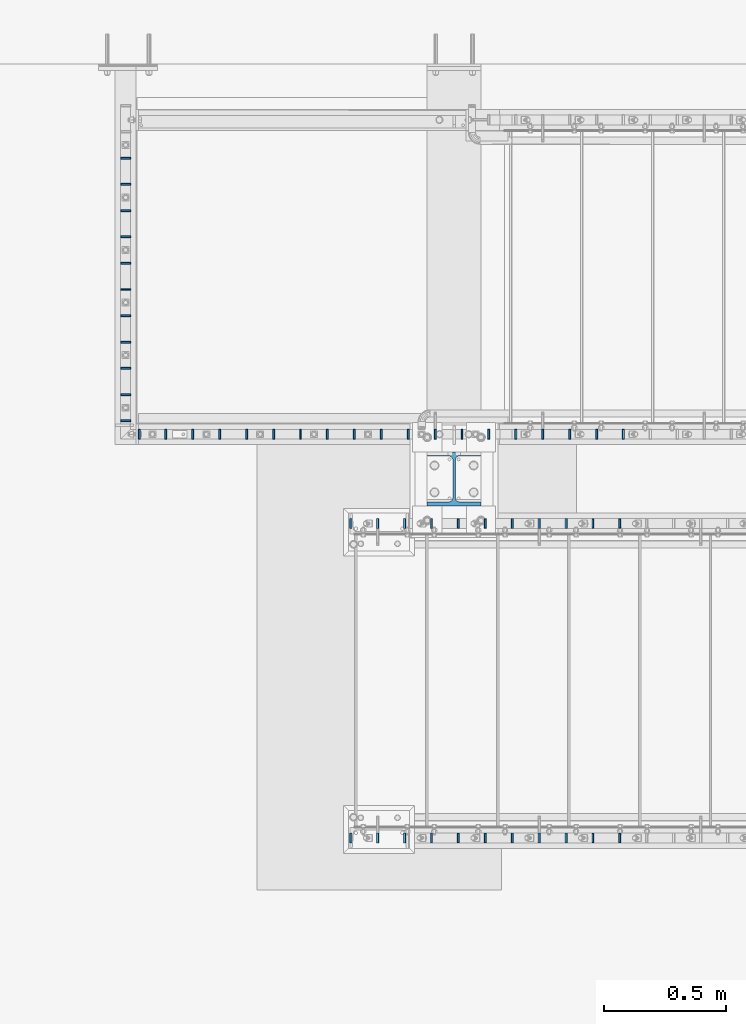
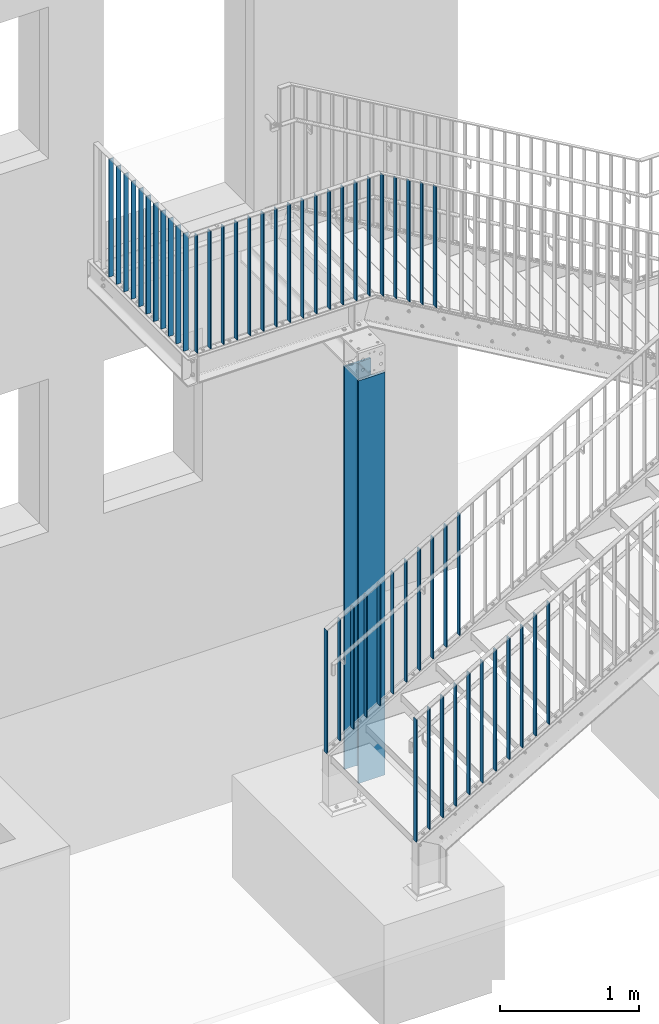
# One storey, part 1 of 145: 53 columns.
"""IFC2X3 building model written with IfcOpenShell, lengths in millimetres."""

from ifc_helpers import new_model, entity, si_unit, converted_unit, frame, origin, origin_with_axes, origin_2d, place, context, project, spatial, rectangle, i_section, extrude, clip, halfspace, material, element, save


model = new_model("IFC2X3")

# Units and contexts
model_context = context("Model", 3, precision=1e-09, world=origin_with_axes())
ifc_project = project(units=[si_unit("LENGTHUNIT", "METRE", prefix="MILLI"), si_unit("AREAUNIT", "SQUARE_METRE"), si_unit("VOLUMEUNIT", "CUBIC_METRE"), converted_unit("PLANEANGLEUNIT", "DEGREE", entity("IfcPlaneAngleMeasure", 0.01745329), si_unit("PLANEANGLEUNIT", "RADIAN"), dimensions=[0, 0, 0, 0, 0, 0, 0])], contexts=[model_context])

# Site, building, storey
site_placement = place(None, origin_with_axes())
site = spatial("IfcSite", under=ifc_project, at=site_placement, Name="BZ1 Grund- und Mittelschule 85716 Unterschlei?heim", CompositionType="ELEMENT")
building_placement = place(site_placement, origin_with_axes())
building = spatial("IfcBuilding", under=site, at=building_placement, Name="Struktur 1", CompositionType="ELEMENT")
storey_placement = place(building_placement, origin_with_axes())
storey = spatial("IfcBuildingStorey", under=building, at=storey_placement, Name="Default Storey", CompositionType="ELEMENT", Elevation=0.0)

# Columns
ifc_material = material(Name="S235JR")
for number, where, z_axis, x_axis in (
    (1, (15728.34372732, -1457.705651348, 3308.000000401), (0.0, 0.0, -1.0), (0.0, -1.0, 0.0)),
    (2, (15728.34372732, -1350.313984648, 3308.000000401), (0.0, 0.0, -1.0), (0.0, -1.0, 0.0)),
    (3, (15783.141490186, -1512.502, 3308.000000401), (0.0, 0.0, -1.0), (1.0, 0.0, 0.0)),
    (4, (15728.34372732, -1242.922317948, 3308.000000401), (0.0, 0.0, -1.0), (0.0, -1.0, 0.0)),
    (5, (15728.34372732, -1135.530651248, 3308.000000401), (0.0, 0.0, -1.0), (0.0, -1.0, 0.0)),
    (6, (15728.34372732, -1028.138984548, 3308.000000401), (0.0, 0.0, -1.0), (0.0, -1.0, 0.0)),
    (7, (15728.34372732, -920.747317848, 3308.000000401), (0.0, 0.0, -1.0), (0.0, -1.0, 0.0)),
    (8, (15728.34372732, -813.355651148, 3308.000000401), (0.0, 0.0, -1.0), (0.0, -1.0, 0.0)),
    (9, (15728.34372732, -705.963984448, 3308.000000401), (0.0, 0.0, -1.0), (0.0, -1.0, 0.0)),
    (10, (15728.34372732, -598.572317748, 3308.000000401), (0.0, 0.0, -1.0), (0.0, -1.0, 0.0)),
    (11, (15728.34372732, -491.180651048, 3308.000000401), (0.0, 0.0, -1.0), (0.0, -1.0, 0.0)),
    (12, (15728.34372732, -383.788984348, 3308.000000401), (0.0, 0.0, -1.0), (0.0, -1.0, 0.0)),
):
    element("IfcColumn", number, at=place(None, frame(where, z_axis=z_axis, x_axis=x_axis)), inside=storey, material=ifc_material, Name="-", ObjectType="-", context=model_context, shape_type="SweptSolid", body=[
        extrude(rectangle(XDim=8.0, YDim=40.0, at=origin_2d()), origin(), (0.0, 0.0, -1.0), 1033.999999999),
    ])
column_1_placement = place(None, frame((17070.84472732, -1695.002, -710.0), z_axis=(0.0, 0.0, -1.0), x_axis=(1.0, 0.0, 0.0)))
element("IfcColumn", 13, at=column_1_placement, inside=storey, material=ifc_material, Name="-", ObjectType="-", context=model_context, shape_type="SweptSolid", body=[
    extrude(i_section(OverallWidth=220.0, OverallDepth=220.0, WebThickness=9.5, FlangeThickness=16.0, FilletRadius=18.0, at=origin_2d()), origin(), (0.0, 0.0, -1.0), 3530.0),
])
column_2_placement = place(None, frame((17748.545893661, -3162.502, 344.648172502), z_axis=(0.0, 0.0, -1.0), x_axis=(1.0, 0.0, 0.0)))
element("IfcColumn", 14, at=column_2_placement, inside=storey, material=ifc_material, Name="-", ObjectType="-", context=model_context, shape_type="Clipping", body=[
    clip(clip(extrude(rectangle(XDim=8.0, YDim=40.0, at=origin_2d()), origin(), (0.0, 0.0, -1.0), 1108.679153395), halfspace(frame((-13423.541197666, -3162.502, 7782.257326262), z_axis=(-0.502691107, 0.0, -0.864466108), x_axis=(0.0, 1.0, 0.0)), True)), halfspace(frame((-13884.821312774, -3162.502, 6989.004729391), z_axis=(0.502691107, 0.0, 0.864466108), x_axis=(0.0, -1.0, 0.0)), True)),
])
column_3_placement = place(None, frame((17748.545893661, -1877.502, 344.648172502), z_axis=(0.0, 0.0, -1.0), x_axis=(-1.0, 0.0, 0.0)))
element("IfcColumn", 15, at=column_3_placement, inside=storey, material=ifc_material, Name="-", ObjectType="-", context=model_context, shape_type="Clipping", body=[
    clip(clip(extrude(rectangle(XDim=8.0, YDim=40.0, at=origin_2d()), origin(), (0.0, 0.0, -1.0), 1108.679153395), halfspace(frame((13423.541197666, 1877.502, 7782.257326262), z_axis=(0.502691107, 0.0, -0.864466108), x_axis=(0.0, -1.0, 0.0)), True)), halfspace(frame((13884.821312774, 1877.502, 6989.004729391), z_axis=(-0.502691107, 0.0, 0.864466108), x_axis=(0.0, 1.0, 0.0)), True)),
])
column_4_placement = place(None, frame((17198.545893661, -3162.502, 24.820586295), z_axis=(0.0, 0.0, -1.0), x_axis=(1.0, 0.0, 0.0)))
element("IfcColumn", 16, at=column_4_placement, inside=storey, material=ifc_material, Name="-", ObjectType="-", context=model_context, shape_type="Clipping", body=[
    clip(clip(extrude(rectangle(XDim=8.0, YDim=40.0, at=origin_2d()), origin(), (0.0, 0.0, -1.0), 1108.679153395), halfspace(frame((-12873.541197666, -3162.502, 7462.429740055), z_axis=(-0.502691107, 0.0, -0.864466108), x_axis=(0.0, 1.0, 0.0)), True)), halfspace(frame((-13334.821312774, -3162.502, 6669.177143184), z_axis=(0.502691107, 0.0, 0.864466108), x_axis=(0.0, -1.0, 0.0)), True)),
])
column_5_placement = place(None, frame((17198.545893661, -1877.502, 24.820586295), z_axis=(0.0, 0.0, -1.0), x_axis=(-1.0, 0.0, 0.0)))
element("IfcColumn", 17, at=column_5_placement, inside=storey, material=ifc_material, Name="-", ObjectType="-", context=model_context, shape_type="Clipping", body=[
    clip(clip(extrude(rectangle(XDim=8.0, YDim=40.0, at=origin_2d()), origin(), (0.0, 0.0, -1.0), 1108.679153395), halfspace(frame((12873.541197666, 1877.502, 7462.429740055), z_axis=(0.502691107, 0.0, -0.864466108), x_axis=(0.0, -1.0, 0.0)), True)), halfspace(frame((13334.821312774, 1877.502, 6669.177143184), z_axis=(-0.502691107, 0.0, 0.864466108), x_axis=(0.0, 1.0, 0.0)), True)),
])
for number, where, z_axis, x_axis in (
    (18, (16333.141490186, -1512.502, 3308.000000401), (0.0, 0.0, -1.0), (1.0, 0.0, 0.0)),
    (19, (16223.141490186, -1512.502, 3308.000000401), (0.0, 0.0, -1.0), (1.0, 0.0, 0.0)),
    (20, (16113.141490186, -1512.502, 3308.000000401), (0.0, 0.0, -1.0), (1.0, 0.0, 0.0)),
    (21, (16003.141490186, -1512.502, 3308.000000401), (0.0, 0.0, -1.0), (1.0, 0.0, 0.0)),
    (22, (15893.141490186, -1512.502, 3308.000000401), (0.0, 0.0, -1.0), (1.0, 0.0, 0.0)),
    (23, (17103.141490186, -1512.502, 3308.000000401), (0.0, 0.0, -1.0), (1.0, 0.0, 0.0)),
    (24, (17213.141490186, -1512.502, 3308.000000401), (0.0, 0.0, -1.0), (1.0, 0.0, 0.0)),
    (25, (16773.141490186, -1512.502, 3308.000000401), (0.0, 0.0, -1.0), (1.0, 0.0, 0.0)),
    (26, (16663.141490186, -1512.502, 3308.000000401), (0.0, 0.0, -1.0), (1.0, 0.0, 0.0)),
    (27, (16553.141490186, -1512.502, 3308.000000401), (0.0, 0.0, -1.0), (1.0, 0.0, 0.0)),
    (28, (16443.141490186, -1512.502, 3308.000000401), (0.0, 0.0, -1.0), (1.0, 0.0, 0.0)),
):
    element("IfcColumn", number, at=place(None, frame(where, z_axis=z_axis, x_axis=x_axis)), inside=storey, material=ifc_material, Name="-", ObjectType="-", context=model_context, shape_type="SweptSolid", body=[
        extrude(rectangle(XDim=8.0, YDim=40.0, at=origin_2d()), origin(), (0.0, 0.0, -1.0), 1033.999999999),
    ])
column_6_placement = place(None, frame((17323.141490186, -1512.506106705, 3246.356636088), z_axis=(0.0, 0.0, -1.0), x_axis=(1.0, 0.0, 0.0)))
element("IfcColumn", 29, at=column_6_placement, inside=storey, material=ifc_material, Name="-", ObjectType="-", context=model_context, shape_type="Clipping", body=[
    clip(clip(extrude(rectangle(XDim=8.0, YDim=40.0, at=origin_2d()), origin(), (0.0, 0.0, -1.0), 1108.679153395), halfspace(frame((-11524.623942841, -1512.506106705, -6725.218014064), z_axis=(0.502691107, 0.0, -0.864466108), x_axis=(0.0, -1.0, 0.0)), True)), halfspace(frame((-11063.343827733, -1512.506106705, -7518.470610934), z_axis=(-0.502691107, 0.0, 0.864466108), x_axis=(0.0, 1.0, 0.0)), True)),
])
column_7_placement = place(None, frame((16993.141490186, -1512.502, 3308.000000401), z_axis=(0.0, 0.0, -1.0), x_axis=(1.0, 0.0, 0.0)))
element("IfcColumn", 30, at=column_7_placement, inside=storey, material=ifc_material, Name="-", ObjectType="-", context=model_context, shape_type="SweptSolid", body=[
    extrude(rectangle(XDim=8.0, YDim=40.0, at=origin_2d()), origin(), (0.0, 0.0, -1.0), 1033.999999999),
])
column_8_placement = place(None, frame((17763.141490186, -1512.506106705, 2990.494567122), z_axis=(0.0, 0.0, -1.0), x_axis=(1.0, 0.0, 0.0)))
element("IfcColumn", 31, at=column_8_placement, inside=storey, material=ifc_material, Name="-", ObjectType="-", context=model_context, shape_type="Clipping", body=[
    clip(clip(extrude(rectangle(XDim=8.0, YDim=40.0, at=origin_2d()), origin(), (0.0, 0.0, -1.0), 1108.679153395), halfspace(frame((-11964.623942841, -1512.506106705, -6981.080083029), z_axis=(0.502691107, 0.0, -0.864466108), x_axis=(0.0, -1.0, 0.0)), True)), halfspace(frame((-11503.343827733, -1512.506106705, -7774.3326799), z_axis=(-0.502691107, 0.0, 0.864466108), x_axis=(0.0, 1.0, 0.0)), True)),
])
column_9_placement = place(None, frame((17653.141490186, -1512.506106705, 3054.460084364), z_axis=(0.0, 0.0, -1.0), x_axis=(1.0, 0.0, 0.0)))
element("IfcColumn", 32, at=column_9_placement, inside=storey, material=ifc_material, Name="-", ObjectType="-", context=model_context, shape_type="Clipping", body=[
    clip(clip(extrude(rectangle(XDim=8.0, YDim=40.0, at=origin_2d()), origin(), (0.0, 0.0, -1.0), 1108.679153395), halfspace(frame((-11854.623942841, -1512.506106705, -6917.114565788), z_axis=(0.502691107, 0.0, -0.864466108), x_axis=(0.0, -1.0, 0.0)), True)), halfspace(frame((-11393.343827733, -1512.506106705, -7710.367162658), z_axis=(-0.502691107, 0.0, 0.864466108), x_axis=(0.0, 1.0, 0.0)), True)),
])
column_10_placement = place(None, frame((17543.141490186, -1512.502, 3118.425601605), z_axis=(0.0, 0.0, -1.0), x_axis=(1.0, 0.0, 0.0)))
element("IfcColumn", 33, at=column_10_placement, inside=storey, material=ifc_material, Name="-", ObjectType="-", context=model_context, shape_type="Clipping", body=[
    clip(clip(extrude(rectangle(XDim=8.0, YDim=40.0, at=origin_2d()), origin(), (0.0, 0.0, -1.0), 1108.679153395), halfspace(frame((-11744.623942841, -1512.502, -6853.149048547), z_axis=(0.502691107, 0.0, -0.864466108), x_axis=(0.0, -1.0, 0.0)), True)), halfspace(frame((-11283.343827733, -1512.502, -7646.401645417), z_axis=(-0.502691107, 0.0, 0.864466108), x_axis=(0.0, 1.0, 0.0)), True)),
])
column_11_placement = place(None, frame((17433.141490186, -1512.502, 3182.391118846), z_axis=(0.0, 0.0, -1.0), x_axis=(1.0, 0.0, 0.0)))
element("IfcColumn", 34, at=column_11_placement, inside=storey, material=ifc_material, Name="-", ObjectType="-", context=model_context, shape_type="Clipping", body=[
    clip(clip(extrude(rectangle(XDim=8.0, YDim=40.0, at=origin_2d()), origin(), (0.0, 0.0, -1.0), 1108.679153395), halfspace(frame((-11634.623942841, -1512.502, -6789.183531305), z_axis=(0.502691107, 0.0, -0.864466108), x_axis=(0.0, -1.0, 0.0)), True)), halfspace(frame((-11173.343827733, -1512.502, -7582.436128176), z_axis=(-0.502691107, 0.0, 0.864466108), x_axis=(0.0, 1.0, 0.0)), True)),
])
column_12_placement = place(None, frame((16883.141490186, -1512.502, 3308.000000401), z_axis=(0.0, 0.0, -1.0), x_axis=(1.0, 0.0, 0.0)))
element("IfcColumn", 35, at=column_12_placement, inside=storey, material=ifc_material, Name="-", ObjectType="-", context=model_context, shape_type="SweptSolid", body=[
    extrude(rectangle(XDim=8.0, YDim=40.0, at=origin_2d()), origin(), (0.0, 0.0, -1.0), 1033.999999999),
])
column_13_placement = place(None, frame((16758.545893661, -3162.502, -231.041482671), z_axis=(0.0, 0.0, -1.0), x_axis=(1.0, 0.0, 0.0)))
element("IfcColumn", 36, at=column_13_placement, inside=storey, material=ifc_material, Name="-", ObjectType="-", context=model_context, shape_type="Clipping", body=[
    clip(clip(extrude(rectangle(XDim=8.0, YDim=40.0, at=origin_2d()), origin(), (0.0, 0.0, -1.0), 1108.679153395), halfspace(frame((-12433.541197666, -3162.502, 7206.567671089), z_axis=(-0.502691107, 0.0, -0.864466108), x_axis=(0.0, 1.0, 0.0)), True)), halfspace(frame((-12894.821312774, -3162.502, 6413.315074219), z_axis=(0.502691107, 0.0, 0.864466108), x_axis=(0.0, -1.0, 0.0)), True)),
])
column_14_placement = place(None, frame((16758.545893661, -1877.502, -231.041482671), z_axis=(0.0, 0.0, -1.0), x_axis=(-1.0, 0.0, 0.0)))
element("IfcColumn", 37, at=column_14_placement, inside=storey, material=ifc_material, Name="-", ObjectType="-", context=model_context, shape_type="Clipping", body=[
    clip(clip(extrude(rectangle(XDim=8.0, YDim=40.0, at=origin_2d()), origin(), (0.0, 0.0, -1.0), 1108.679153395), halfspace(frame((12433.541197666, 1877.502, 7206.567671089), z_axis=(0.502691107, 0.0, -0.864466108), x_axis=(0.0, -1.0, 0.0)), True)), halfspace(frame((12894.821312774, 1877.502, 6413.315074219), z_axis=(-0.502691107, 0.0, 0.864466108), x_axis=(0.0, 1.0, 0.0)), True)),
])
column_15_placement = place(None, frame((16868.545893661, -3162.502, -167.075965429), z_axis=(0.0, 0.0, -1.0), x_axis=(1.0, 0.0, 0.0)))
element("IfcColumn", 38, at=column_15_placement, inside=storey, material=ifc_material, Name="-", ObjectType="-", context=model_context, shape_type="Clipping", body=[
    clip(clip(extrude(rectangle(XDim=8.0, YDim=40.0, at=origin_2d()), origin(), (0.0, 0.0, -1.0), 1108.679153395), halfspace(frame((-12543.541197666, -3162.502, 7270.533188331), z_axis=(-0.502691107, 0.0, -0.864466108), x_axis=(0.0, 1.0, 0.0)), True)), halfspace(frame((-13004.821312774, -3162.502, 6477.28059146), z_axis=(0.502691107, 0.0, 0.864466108), x_axis=(0.0, -1.0, 0.0)), True)),
])
column_16_placement = place(None, frame((16868.545893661, -1877.502, -167.075965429), z_axis=(0.0, 0.0, -1.0), x_axis=(-1.0, 0.0, 0.0)))
element("IfcColumn", 39, at=column_16_placement, inside=storey, material=ifc_material, Name="-", ObjectType="-", context=model_context, shape_type="Clipping", body=[
    clip(clip(extrude(rectangle(XDim=8.0, YDim=40.0, at=origin_2d()), origin(), (0.0, 0.0, -1.0), 1108.679153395), halfspace(frame((12543.541197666, 1877.502, 7270.533188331), z_axis=(0.502691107, 0.0, -0.864466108), x_axis=(0.0, -1.0, 0.0)), True)), halfspace(frame((13004.821312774, 1877.502, 6477.28059146), z_axis=(-0.502691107, 0.0, 0.864466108), x_axis=(0.0, 1.0, 0.0)), True)),
])
column_17_placement = place(None, frame((16978.545893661, -3162.502, -103.110448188), z_axis=(0.0, 0.0, -1.0), x_axis=(1.0, 0.0, 0.0)))
element("IfcColumn", 40, at=column_17_placement, inside=storey, material=ifc_material, Name="-", ObjectType="-", context=model_context, shape_type="Clipping", body=[
    clip(clip(extrude(rectangle(XDim=8.0, YDim=40.0, at=origin_2d()), origin(), (0.0, 0.0, -1.0), 1108.679153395), halfspace(frame((-12653.541197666, -3162.502, 7334.498705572), z_axis=(-0.502691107, 0.0, -0.864466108), x_axis=(0.0, 1.0, 0.0)), True)), halfspace(frame((-13114.821312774, -3162.502, 6541.246108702), z_axis=(0.502691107, 0.0, 0.864466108), x_axis=(0.0, -1.0, 0.0)), True)),
])
column_18_placement = place(None, frame((16978.545893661, -1877.502, -103.110448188), z_axis=(0.0, 0.0, -1.0), x_axis=(-1.0, 0.0, 0.0)))
element("IfcColumn", 41, at=column_18_placement, inside=storey, material=ifc_material, Name="-", ObjectType="-", context=model_context, shape_type="Clipping", body=[
    clip(clip(extrude(rectangle(XDim=8.0, YDim=40.0, at=origin_2d()), origin(), (0.0, 0.0, -1.0), 1108.679153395), halfspace(frame((12653.541197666, 1877.502, 7334.498705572), z_axis=(0.502691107, 0.0, -0.864466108), x_axis=(0.0, -1.0, 0.0)), True)), halfspace(frame((13114.821312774, 1877.502, 6541.246108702), z_axis=(-0.502691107, 0.0, 0.864466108), x_axis=(0.0, 1.0, 0.0)), True)),
])
column_19_placement = place(None, frame((17088.545893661, -3162.502, -39.144930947), z_axis=(0.0, 0.0, -1.0), x_axis=(1.0, 0.0, 0.0)))
element("IfcColumn", 42, at=column_19_placement, inside=storey, material=ifc_material, Name="-", ObjectType="-", context=model_context, shape_type="Clipping", body=[
    clip(clip(extrude(rectangle(XDim=8.0, YDim=40.0, at=origin_2d()), origin(), (0.0, 0.0, -1.0), 1108.679153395), halfspace(frame((-12763.541197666, -3162.502, 7398.464222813), z_axis=(-0.502691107, 0.0, -0.864466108), x_axis=(0.0, 1.0, 0.0)), True)), halfspace(frame((-13224.821312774, -3162.502, 6605.211625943), z_axis=(0.502691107, 0.0, 0.864466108), x_axis=(0.0, -1.0, 0.0)), True)),
])
column_20_placement = place(None, frame((17088.545893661, -1877.502, -39.144930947), z_axis=(0.0, 0.0, -1.0), x_axis=(-1.0, 0.0, 0.0)))
element("IfcColumn", 43, at=column_20_placement, inside=storey, material=ifc_material, Name="-", ObjectType="-", context=model_context, shape_type="Clipping", body=[
    clip(clip(extrude(rectangle(XDim=8.0, YDim=40.0, at=origin_2d()), origin(), (0.0, 0.0, -1.0), 1108.679153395), halfspace(frame((12763.541197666, 1877.502, 7398.464222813), z_axis=(0.502691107, 0.0, -0.864466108), x_axis=(0.0, -1.0, 0.0)), True)), halfspace(frame((13224.821312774, 1877.502, 6605.211625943), z_axis=(-0.502691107, 0.0, 0.864466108), x_axis=(0.0, 1.0, 0.0)), True)),
])
column_21_placement = place(None, frame((17308.545893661, -3162.502, 88.786103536), z_axis=(0.0, 0.0, -1.0), x_axis=(1.0, 0.0, 0.0)))
element("IfcColumn", 44, at=column_21_placement, inside=storey, material=ifc_material, Name="-", ObjectType="-", context=model_context, shape_type="Clipping", body=[
    clip(clip(extrude(rectangle(XDim=8.0, YDim=40.0, at=origin_2d()), origin(), (0.0, 0.0, -1.0), 1108.679153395), halfspace(frame((-12983.541197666, -3162.502, 7526.395257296), z_axis=(-0.502691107, 0.0, -0.864466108), x_axis=(0.0, 1.0, 0.0)), True)), halfspace(frame((-13444.821312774, -3162.502, 6733.142660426), z_axis=(0.502691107, 0.0, 0.864466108), x_axis=(0.0, -1.0, 0.0)), True)),
])
column_22_placement = place(None, frame((17308.545893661, -1877.502, 88.786103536), z_axis=(0.0, 0.0, -1.0), x_axis=(-1.0, 0.0, 0.0)))
element("IfcColumn", 45, at=column_22_placement, inside=storey, material=ifc_material, Name="-", ObjectType="-", context=model_context, shape_type="Clipping", body=[
    clip(clip(extrude(rectangle(XDim=8.0, YDim=40.0, at=origin_2d()), origin(), (0.0, 0.0, -1.0), 1108.679153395), halfspace(frame((12983.541197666, 1877.502, 7526.395257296), z_axis=(0.502691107, 0.0, -0.864466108), x_axis=(0.0, -1.0, 0.0)), True)), halfspace(frame((13444.821312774, 1877.502, 6733.142660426), z_axis=(-0.502691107, 0.0, 0.864466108), x_axis=(0.0, 1.0, 0.0)), True)),
])
column_23_placement = place(None, frame((17418.545893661, -3162.502, 152.751620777), z_axis=(0.0, 0.0, -1.0), x_axis=(1.0, 0.0, 0.0)))
element("IfcColumn", 46, at=column_23_placement, inside=storey, material=ifc_material, Name="-", ObjectType="-", context=model_context, shape_type="Clipping", body=[
    clip(clip(extrude(rectangle(XDim=8.0, YDim=40.0, at=origin_2d()), origin(), (0.0, 0.0, -1.0), 1108.679153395), halfspace(frame((-13093.541197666, -3162.502, 7590.360774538), z_axis=(-0.502691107, 0.0, -0.864466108), x_axis=(0.0, 1.0, 0.0)), True)), halfspace(frame((-13554.821312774, -3162.502, 6797.108177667), z_axis=(0.502691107, 0.0, 0.864466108), x_axis=(0.0, -1.0, 0.0)), True)),
])
column_24_placement = place(None, frame((17418.545893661, -1877.502, 152.751620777), z_axis=(0.0, 0.0, -1.0), x_axis=(-1.0, 0.0, 0.0)))
element("IfcColumn", 47, at=column_24_placement, inside=storey, material=ifc_material, Name="-", ObjectType="-", context=model_context, shape_type="Clipping", body=[
    clip(clip(extrude(rectangle(XDim=8.0, YDim=40.0, at=origin_2d()), origin(), (0.0, 0.0, -1.0), 1108.679153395), halfspace(frame((13093.541197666, 1877.502, 7590.360774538), z_axis=(0.502691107, 0.0, -0.864466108), x_axis=(0.0, -1.0, 0.0)), True)), halfspace(frame((13554.821312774, 1877.502, 6797.108177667), z_axis=(-0.502691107, 0.0, 0.864466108), x_axis=(0.0, 1.0, 0.0)), True)),
])
column_25_placement = place(None, frame((17528.545893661, -3162.502, 216.717138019), z_axis=(0.0, 0.0, -1.0), x_axis=(1.0, 0.0, 0.0)))
element("IfcColumn", 48, at=column_25_placement, inside=storey, material=ifc_material, Name="-", ObjectType="-", context=model_context, shape_type="Clipping", body=[
    clip(clip(extrude(rectangle(XDim=8.0, YDim=40.0, at=origin_2d()), origin(), (0.0, 0.0, -1.0), 1108.679153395), halfspace(frame((-13203.541197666, -3162.502, 7654.326291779), z_axis=(-0.502691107, 0.0, -0.864466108), x_axis=(0.0, 1.0, 0.0)), True)), halfspace(frame((-13664.821312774, -3162.502, 6861.073694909), z_axis=(0.502691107, 0.0, 0.864466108), x_axis=(0.0, -1.0, 0.0)), True)),
])
column_26_placement = place(None, frame((17528.545893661, -1877.502, 216.717138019), z_axis=(0.0, 0.0, -1.0), x_axis=(-1.0, 0.0, 0.0)))
element("IfcColumn", 49, at=column_26_placement, inside=storey, material=ifc_material, Name="-", ObjectType="-", context=model_context, shape_type="Clipping", body=[
    clip(clip(extrude(rectangle(XDim=8.0, YDim=40.0, at=origin_2d()), origin(), (0.0, 0.0, -1.0), 1108.679153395), halfspace(frame((13203.541197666, 1877.502, 7654.326291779), z_axis=(0.502691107, 0.0, -0.864466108), x_axis=(0.0, -1.0, 0.0)), True)), halfspace(frame((13664.821312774, 1877.502, 6861.073694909), z_axis=(-0.502691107, 0.0, 0.864466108), x_axis=(0.0, 1.0, 0.0)), True)),
])
column_27_placement = place(None, frame((17638.545893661, -3162.502, 280.68265526), z_axis=(0.0, 0.0, -1.0), x_axis=(1.0, 0.0, 0.0)))
element("IfcColumn", 50, at=column_27_placement, inside=storey, material=ifc_material, Name="-", ObjectType="-", context=model_context, shape_type="Clipping", body=[
    clip(clip(extrude(rectangle(XDim=8.0, YDim=40.0, at=origin_2d()), origin(), (0.0, 0.0, -1.0), 1108.679153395), halfspace(frame((-13313.541197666, -3162.502, 7718.29180902), z_axis=(-0.502691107, 0.0, -0.864466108), x_axis=(0.0, 1.0, 0.0)), True)), halfspace(frame((-13774.821312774, -3162.502, 6925.03921215), z_axis=(0.502691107, 0.0, 0.864466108), x_axis=(0.0, -1.0, 0.0)), True)),
])
column_28_placement = place(None, frame((17638.545893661, -1877.502, 280.68265526), z_axis=(0.0, 0.0, -1.0), x_axis=(-1.0, 0.0, 0.0)))
element("IfcColumn", 51, at=column_28_placement, inside=storey, material=ifc_material, Name="-", ObjectType="-", context=model_context, shape_type="Clipping", body=[
    clip(clip(extrude(rectangle(XDim=8.0, YDim=40.0, at=origin_2d()), origin(), (0.0, 0.0, -1.0), 1108.679153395), halfspace(frame((13313.541197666, 1877.502, 7718.29180902), z_axis=(0.502691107, 0.0, -0.864466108), x_axis=(0.0, -1.0, 0.0)), True)), halfspace(frame((13774.821312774, 1877.502, 6925.03921215), z_axis=(-0.502691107, 0.0, 0.864466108), x_axis=(0.0, 1.0, 0.0)), True)),
])
column_29_placement = place(None, frame((16648.545893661, -3162.502, -316.942667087), z_axis=(0.0, 0.0, -1.0), x_axis=(1.0, 0.0, 0.0)))
element("IfcColumn", 52, at=column_29_placement, inside=storey, material=ifc_material, Name="-", ObjectType="-", context=model_context, shape_type="Clipping", body=[
    clip(clip(extrude(rectangle(XDim=8.0, YDim=40.0, at=origin_2d()), origin(), (0.0, 0.0, -1.0), 1135.178374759), halfspace(frame((-4020.422097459, -3162.502, 6947.747313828), z_axis=(-0.866801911, 0.0, -0.498652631), x_axis=(0.0, 1.0, 0.0)), True)), halfspace(frame((-12165.313463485, -3162.502, -8110.092035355), z_axis=(-0.498652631, 0.0, 0.866801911), x_axis=(0.0, 1.0, 0.0)), True)),
])
column_30_placement = place(None, frame((16648.545893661, -1877.502, -316.942667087), z_axis=(0.0, 0.0, -1.0), x_axis=(-1.0, 0.0, 0.0)))
element("IfcColumn", 53, at=column_30_placement, inside=storey, material=ifc_material, Name="-", ObjectType="-", context=model_context, shape_type="Clipping", body=[
    clip(clip(extrude(rectangle(XDim=8.0, YDim=40.0, at=origin_2d()), origin(), (0.0, 0.0, -1.0), 1135.178374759), halfspace(frame((4020.42209746, 1877.502, 6947.747313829), z_axis=(0.866801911, 0.0, -0.498652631), x_axis=(0.0, -1.0, 0.0)), True)), halfspace(frame((12165.313463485, 1877.502, -8110.092035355), z_axis=(0.498652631, 0.0, 0.866801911), x_axis=(0.0, -1.0, 0.0)), True)),
])

save(model, "model.ifc")
